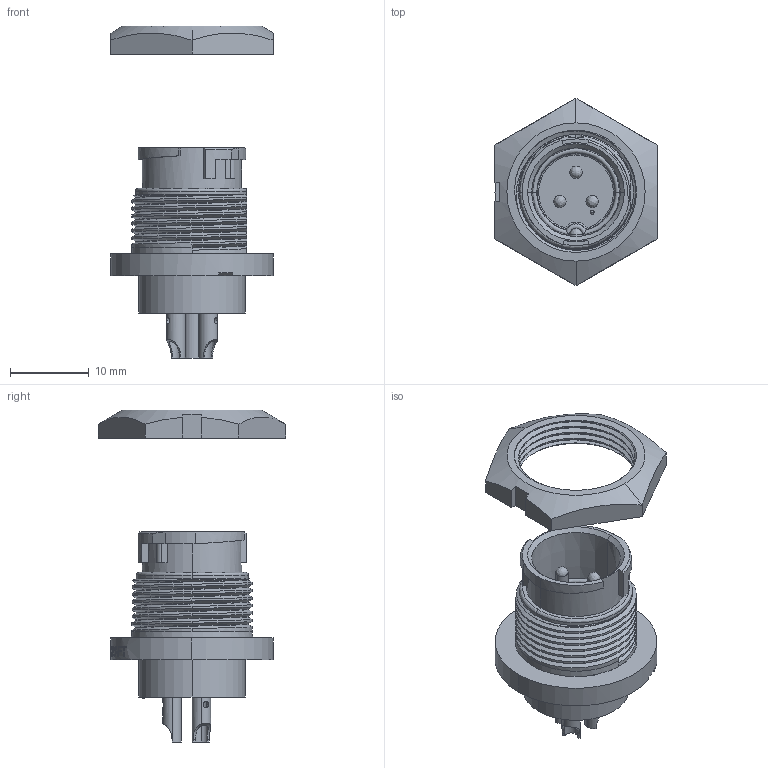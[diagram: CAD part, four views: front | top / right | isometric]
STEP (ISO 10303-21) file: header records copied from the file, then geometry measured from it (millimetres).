
FILE_DESCRIPTION (( 'STEP AP214' ), '1' );
FILE_NAME ('EN3P3M16.STEP', '2014-07-01T16:28:15', ( '' ), ( '' ), 'SwSTEP 2.0', 'SolidWorks 2014', '' );
FILE_SCHEMA (( 'AUTOMOTIVE_DESIGN' ));
Length unit declared in the file: inch
Products named in the file (1): EN3P3M16
Bounding box: 20.64 x 23.83 x 42.22 mm (x, y, z)
Volume: 3558.2 mm3; surface area: 3313.6 mm2
Topology: 2 solids, 2 shells, 408 faces, 1123 edges, 734 vertices
Faces by surface type: plane 138, bspline 122, cylinder 114, cone 24, torus 10
Entity records: 30727 total; most frequent: CARTESIAN_POINT 20919, ORIENTED_EDGE 2228, DIRECTION 1519, EDGE_CURVE 1114, VERTEX_POINT 734, AXIS2_PLACEMENT_3D 529, VECTOR 461, LINE 461
